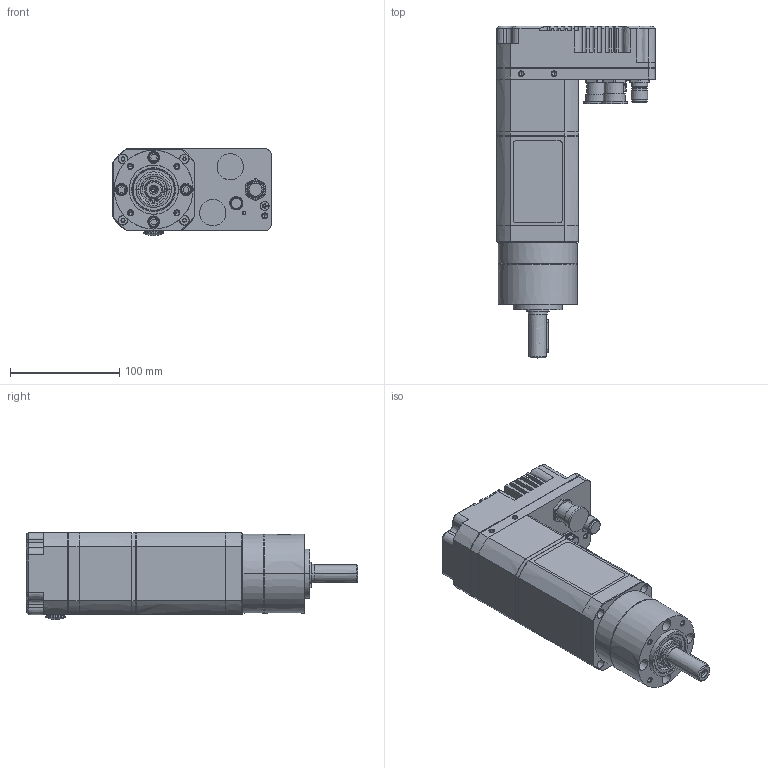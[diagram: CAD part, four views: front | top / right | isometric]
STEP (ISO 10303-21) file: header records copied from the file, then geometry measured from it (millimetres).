
FILE_DESCRIPTION((''),'2;1');
FILE_NAME('8035D1_1STAGE','2018-09-18T',('alecma1'),('CROUZET-AUTOMATISMES'),'CREO PARAMETRIC BY PTC INC, 2017170','CREO PARAMETRIC BY PTC INC, 2017170','');
FILE_SCHEMA(('AP203_CONFIGURATION_CONTROLLED_3D_DESIGN_OF_MECHANICAL_PARTS_AND_ASSEMBLIES_MIM_LF { 1 0 10303 403 2 1 2 }'));
Products named in the file (1): 8035D1_1STAGE
Bounding box: 145 x 303.3 x 79.69 mm (x, y, z)
Surface area: 141100.9 mm2 (no closed solid volume)
Topology: 0 solids, 0 shells, 789 faces, 4107 edges, 4040 vertices
Faces by surface type: bspline 738, torus 47, sphere 4
Entity records: 77978 total; most frequent: CARTESIAN_POINT 34706, DIRECTION 6251, TRIMMED_CURVE 5251, VECTOR 4378, LINE 4378, DEFINITIONAL_REPRESENTATION 3995, PCURVE 3995, COMPOSITE_CURVE_SEGMENT 3995
